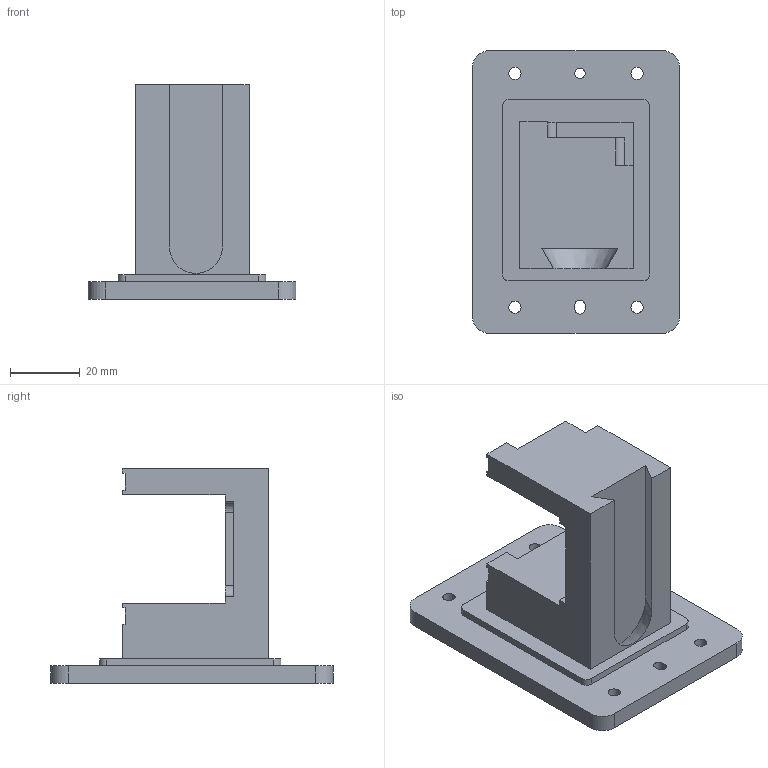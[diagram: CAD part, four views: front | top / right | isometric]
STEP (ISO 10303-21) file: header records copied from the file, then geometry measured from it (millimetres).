
FILE_DESCRIPTION(/* description */ (''),/* implementation_level */ '2;1');
FILE_NAME(/* name */ 'C:\Users\strothej\Documents\ActualDocuments\MicroscopeParts\TwoPhotonSystem\ScanningMechanics\v33\Drawings\Collection_Zeiss_Filter_Cube_Mount.stp',/* time_stamp */ '2017-09-03T15:46:39-07:00',/* author */ ('strothej'),/* organization */ (''),/* preprocessor_version */ 'ST-DEVELOPER v16.1',/* originating_system */ 'Autodesk Inventor 2016',/* authorisation */ '');
FILE_SCHEMA (('AUTOMOTIVE_DESIGN { 1 0 10303 214 3 1 1 }'));
Length unit declared in the file: millimetre
Products named in the file (1): Collection_Zeiss_Filter_Cube_Mount
Bounding box: 59.5 x 81 x 61.5 mm (x, y, z)
Volume: 61559.4 mm3; surface area: 20914.3 mm2
Topology: 1 solids, 1 shells, 96 faces, 274 edges, 182 vertices
Faces by surface type: plane 58, cylinder 31, cone 7
Full cylindrical faces by diameter (mm): 1.567 x6, 3 x1, 3.5 x4
Entity records: 2999 total; most frequent: CARTESIAN_POINT 516, DIRECTION 505, ORIENTED_EDGE 494, EDGE_CURVE 247, LINE 183, VECTOR 183, VERTEX_POINT 172, AXIS2_PLACEMENT_3D 161
